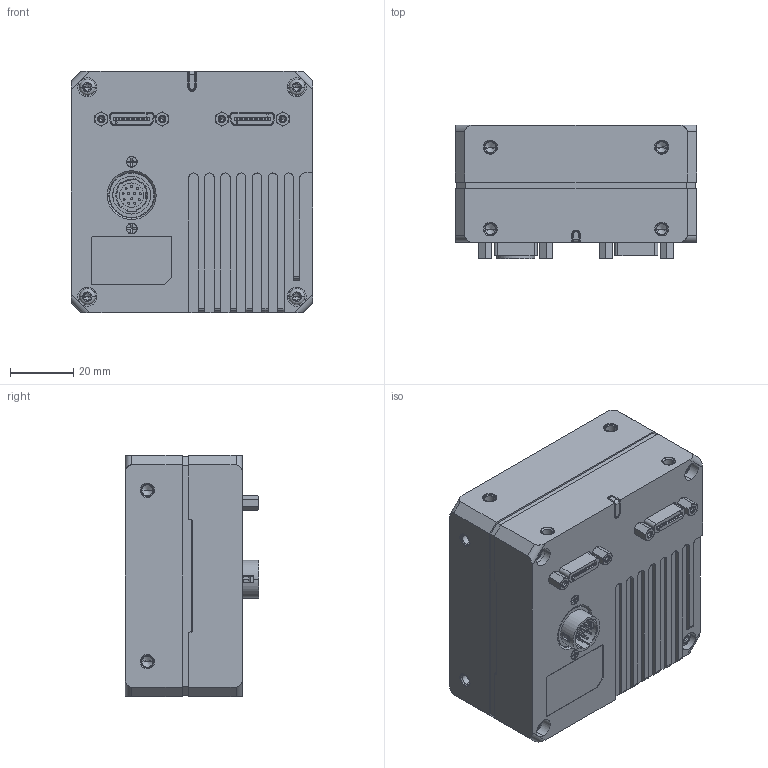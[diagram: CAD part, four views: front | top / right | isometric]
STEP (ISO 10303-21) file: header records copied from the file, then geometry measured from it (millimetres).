
FILE_DESCRIPTION((''),'2;1');
FILE_NAME('16K-ALL-2_ASM','2021-10-25T19:56:25',('mafangning'),(''),'CREO PARAMETRIC BY PTC INC, 2020044','CREO PARAMETRIC BY PTC INC, 2020044','');
FILE_SCHEMA(('CONFIG_CONTROL_DESIGN'));
Products named in the file (17): DA-14-004248; DR16K3_5_B_W_1_2_ASM; DE-14-015253; 101303143_2; HR10A-10R-12PB__2; 101302212_2; LED-LIGHT_24_2; 101235054_2_ASM; DE-14-015256; _2000; SC-KM2X4B_2; SC-PM3X17T10L5-BNI-SUS_2; ST-S4X5-M2X6-F2X4-B_2; 193100523_SC-T1M2X4NL-B_; DE-19-001422; MV-20249REV10-202110091655_ASM_ASM; 16K-ALL-2_ASM
Assembly tree (24 placements, depth 3):
  16K-ALL-2_ASM
    DA-14-004248
    DR16K3_5_B_W_1_2_ASM
    DE-14-015253
    101235054_2_ASM
      101303143_2  x2
      HR10A-10R-12PB__2
      101302212_2
      LED-LIGHT_24_2
    DE-14-015256
    _2000
    SC-KM2X4B_2  x2
    SC-PM3X17T10L5-BNI-SUS_2  x4
    ST-S4X5-M2X6-F2X4-B_2  x4
    193100523_SC-T1M2X4NL-B_
    DE-19-001422
    MV-20249REV10-202110091655_ASM_ASM
Bounding box: 76 x 42.14 x 76 mm (x, y, z)
Volume: 60565.4 mm3; surface area: 62304.1 mm2
Topology: 21 solids, 82 shells, 3463 faces, 9391 edges, 6090 vertices
Faces by surface type: plane 2082, cylinder 1061, cone 186, bspline 74, extrusion 32, torus 24, sphere 4
Entity records: 88781 total; most frequent: CARTESIAN_POINT 18727, DIRECTION 14448, ORIENTED_EDGE 14446, EDGE_CURVE 7407, VECTOR 5026, LINE 5012, VERTEX_POINT 4844, AXIS2_PLACEMENT_3D 4711
